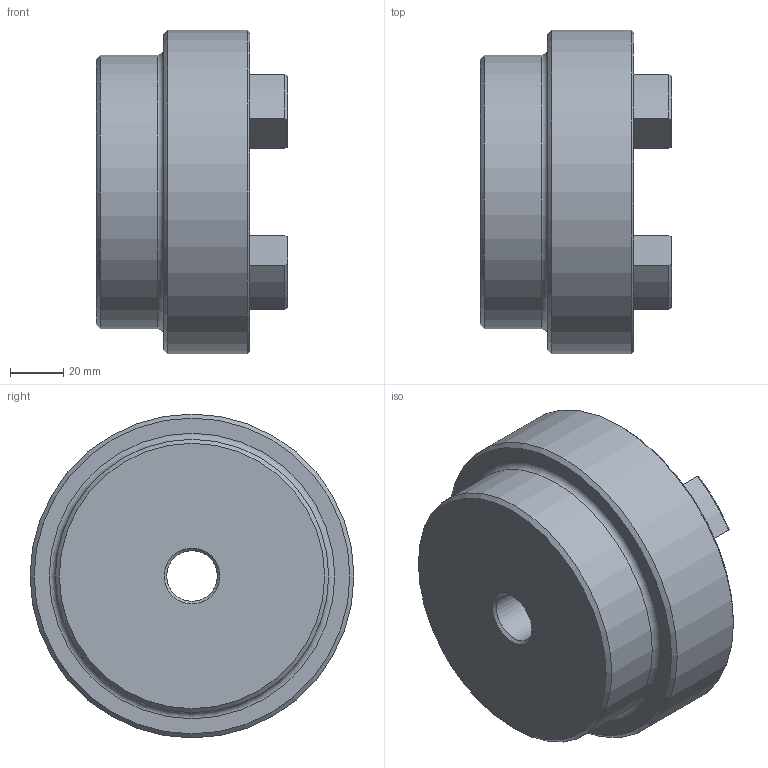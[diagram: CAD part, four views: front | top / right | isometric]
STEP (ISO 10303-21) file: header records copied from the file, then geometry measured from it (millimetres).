
FILE_DESCRIPTION (( 'STEP AP203' ), '1' );
FILE_NAME ('RC5.step', '2024-07-25T13:19:42', ( 'Adlan' ), ( '' ), 'SwSTEP 2.0', 'SolidWorks 2013', '' );
FILE_SCHEMA (( 'CONFIG_CONTROL_DESIGN' ));
Length unit declared in the file: inch
Products named in the file (1): RC5
Bounding box: 72.14 x 122.17 x 122.17 mm (x, y, z)
Volume: 467818 mm3; surface area: 57647.1 mm2
Topology: 1 solids, 1 shells, 76 faces, 189 edges, 117 vertices
Faces by surface type: cylinder 31, torus 17, plane 16, cone 12
Full cylindrical faces by diameter (mm): 19.058 x1, 103.124 x1, 122.174 x1
Entity records: 2349 total; most frequent: CARTESIAN_POINT 443, DIRECTION 416, ORIENTED_EDGE 358, EDGE_CURVE 179, AXIS2_PLACEMENT_3D 168, VERTEX_POINT 115, CIRCLE 91, EDGE_LOOP 88
